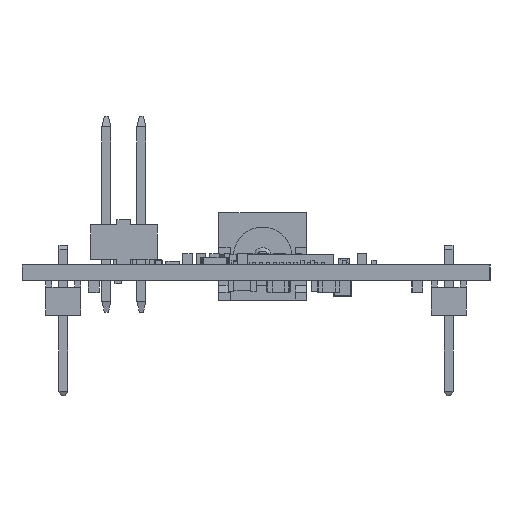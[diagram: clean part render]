
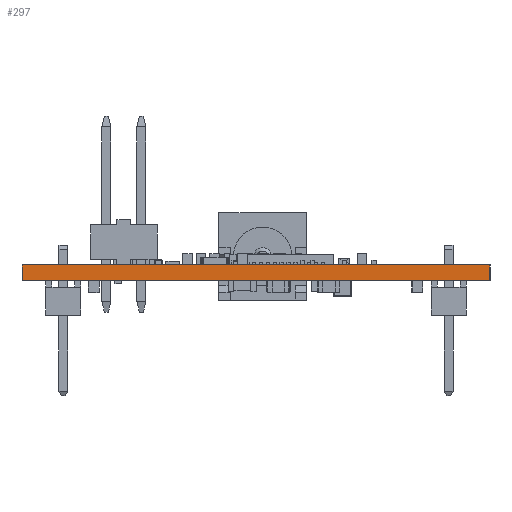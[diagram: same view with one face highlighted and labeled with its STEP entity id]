
A CAD part, left-side view. The second image highlights one B-rep face of the part: STEP entity #297.
In plain terms, the highlighted planar face has unit normal (-1, 0, 0).
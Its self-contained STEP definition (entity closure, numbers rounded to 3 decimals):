
#297 = ADVANCED_FACE('',(#298),#332,.T.);
#298 = FACE_BOUND('',#299,.T.);
#299 = EDGE_LOOP('',(#300,#310,#318,#326));
#300 = ORIENTED_EDGE('',*,*,#301,.T.);
#301 = EDGE_CURVE('',#302,#304,#306,.T.);
#302 = VERTEX_POINT('',#303);
#303 = CARTESIAN_POINT('',(91.,59.,0.));
#304 = VERTEX_POINT('',#305);
#305 = CARTESIAN_POINT('',(91.,59.,1.11));
#306 = LINE('',#307,#308);
#307 = CARTESIAN_POINT('',(91.,59.,0.));
#308 = VECTOR('',#309,1.);
#309 = DIRECTION('',(0.,0.,1.));
#310 = ORIENTED_EDGE('',*,*,#311,.T.);
#311 = EDGE_CURVE('',#304,#312,#314,.T.);
#312 = VERTEX_POINT('',#313);
#313 = CARTESIAN_POINT('',(91.,93.,1.11));
#314 = LINE('',#315,#316);
#315 = CARTESIAN_POINT('',(91.,59.,1.11));
#316 = VECTOR('',#317,1.);
#317 = DIRECTION('',(0.,1.,0.));
#318 = ORIENTED_EDGE('',*,*,#319,.F.);
#319 = EDGE_CURVE('',#320,#312,#322,.T.);
#320 = VERTEX_POINT('',#321);
#321 = CARTESIAN_POINT('',(91.,93.,0.));
#322 = LINE('',#323,#324);
#323 = CARTESIAN_POINT('',(91.,93.,0.));
#324 = VECTOR('',#325,1.);
#325 = DIRECTION('',(0.,0.,1.));
#326 = ORIENTED_EDGE('',*,*,#327,.F.);
#327 = EDGE_CURVE('',#302,#320,#328,.T.);
#328 = LINE('',#329,#330);
#329 = CARTESIAN_POINT('',(91.,59.,0.));
#330 = VECTOR('',#331,1.);
#331 = DIRECTION('',(0.,1.,0.));
#332 = PLANE('',#333);
#333 = AXIS2_PLACEMENT_3D('',#334,#335,#336);
#334 = CARTESIAN_POINT('',(91.,59.,0.));
#335 = DIRECTION('',(-1.,0.,0.));
#336 = DIRECTION('',(0.,1.,0.));
